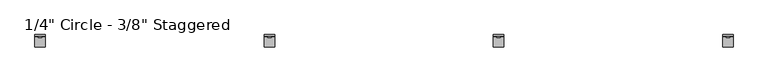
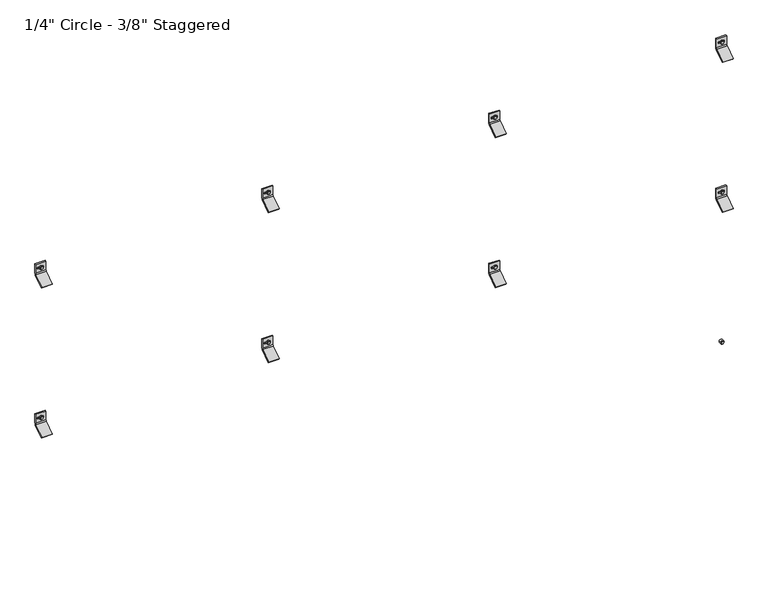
"""IFC4 building model written with IfcOpenShell, lengths in millimetres: plate geometry."""

from ifc_helpers import new_model, si_unit, point, frame, frame_2d, origin, place, context, project, spatial, polyline, circle_curve, trimmed, segment, composite_curve, outline, extrude, source, transform, mapped, element, save
from ifc_brep_helpers import plane_surface, cylinder_surface, revolved_surface, advanced_brep


def plate_4df36928(model_context):
    return source(origin(), model_context, "Body", "SolidModel", [
        extrude(outline(polyline([(1923.7554341, 1250.1282054), (1919.4097216, 1252.6372037), (1919.4097216, 1257.6552003), (1923.7554341, 1260.1641986), (1928.1011466, 1257.6552003), (1928.1011466, 1252.6372037), (1923.7554341, 1250.1282054)])), frame((0.0, -58.7607779, 0.0), z_axis=(0.0, 1.0, 0.0), x_axis=(0.0, 0.0, 1.0)), (0.0, 0.0, 1.0), 11.1357779),
        extrude(outline(composite_curve([segment(trimmed(circle_curve(frame_2d((1923.8487411, 1255.146202)), 6.35), [point((1923.8487411, 1261.496202))], [point((1923.8487411, 1248.796202))], False, "CARTESIAN"), True, "CONTINUOUS"), segment(trimmed(circle_curve(frame_2d((1923.8487411, 1255.146202)), 6.35), [point((1923.8487411, 1248.796202))], [point((1923.8487411, 1261.496202))], False, "CARTESIAN"), True, "CONTINUOUS")], self_intersect=False)), frame((0.0, -57.0817743, 0.0), z_axis=(0.0, 1.0, 0.0), x_axis=(0.0, 0.0, 1.0)), (0.0, 0.0, 1.0), 9.4567743),
        advanced_brep(
        [(1236.096202, -47.625, 1906.606122), (1236.096202, -51.2819443, 1898.9440896), (1236.096202, -89.5163624, 1872.1720618), (1236.096202, -92.9330442, 1875.5887436), (1236.096202, -54.3526876, 1902.6030001), (1236.096202, -52.4002, 1906.6061929), (1236.096202, -52.4002, 1940.7988072), (1236.096202, -47.625, 1940.7988072), (1274.196202, -47.625, 1906.606122), (1274.196202, -47.625, 1940.7988072), (1274.196202, -52.4002, 1940.7988072), (1274.196202, -52.4002, 1906.6061929), (1274.196202, -54.3526876, 1902.6030001), (1274.196202, -92.9330442, 1875.5887436), (1274.196202, -89.5163624, 1872.1720618), (1274.196202, -51.2819443, 1898.9440896), (1261.8873909, -52.4002, 1926.753591), (1261.8873909, -52.4002, 1920.403591), (1245.6595307, -52.4002, 1920.403591), (1245.6595307, -52.4002, 1926.753591), (1261.8873909, -47.625, 1920.403591), (1261.8873909, -47.625, 1926.753591), (1245.6595307, -47.625, 1926.753591), (1245.6595307, -47.625, 1920.403591)],
        [
            (0, 1, circle_curve(frame((1236.096202, -57.4802202, 1906.606122), z_axis=(-1.0, 0.0, 0.0), x_axis=(0.0, -1.0, 0.0)), 9.8552202)),
            (1, 2),
            (2, 3),
            (3, 4),
            (4, 5, circle_curve(frame((1236.096202, -57.4803246, 1906.6061929), z_axis=(1.0, 0.0, 0.0), x_axis=(0.0, -1.0, 0.0)), 5.0801246)),
            (5, 6),
            (6, 7),
            (7, 0),
            (8, 9),
            (9, 10),
            (10, 11),
            (11, 12, circle_curve(frame((1274.196202, -57.4803246, 1906.6061929), z_axis=(-1.0, 0.0, 0.0), x_axis=(0.0, -1.0, 0.0)), 5.0801246)),
            (12, 13),
            (13, 14),
            (14, 15),
            (15, 8, circle_curve(frame((1274.196202, -57.4802202, 1906.606122), z_axis=(1.0, 0.0, 0.0), x_axis=(0.0, -1.0, 0.0)), 9.8552202)),
            (4, 12),
            (11, 5),
            (10, 6),
            (16, 17, circle_curve(frame((1261.8873909, -52.4002, 1923.578591), z_axis=(0.0, 1.0, 0.0), x_axis=(0.0, 0.0, -1.0)), 3.175)),
            (17, 18),
            (18, 19, circle_curve(frame((1245.6595307, -52.4002, 1923.578591), z_axis=(0.0, 1.0, 0.0), x_axis=(0.0, 0.0, -1.0)), 3.175)),
            (19, 16),
            (9, 7),
            (8, 0),
            (20, 21, circle_curve(frame((1261.8873909, -47.625, 1923.578591), z_axis=(0.0, -1.0, 0.0), x_axis=(0.0, 0.0, -1.0)), 3.175)),
            (21, 22),
            (22, 23, circle_curve(frame((1245.6595307, -47.625, 1923.578591), z_axis=(0.0, -1.0, 0.0), x_axis=(0.0, 0.0, -1.0)), 3.175)),
            (23, 20),
            (15, 1),
            (20, 17),
            (16, 21),
            (19, 22),
            (18, 23),
            (14, 2),
            (13, 3),
        ],
        [
            plane_surface(frame((1236.096202, -67.3354404, 1906.606122), z_axis=(-1.0, 0.0, 0.0), x_axis=(0.0, 0.0, 1.0))),
            plane_surface(frame((1274.196202, -67.3354404, 1906.606122), z_axis=(1.0, 0.0, 0.0), x_axis=(0.0, 0.0, -1.0))),
            revolved_surface(polyline([(1274.196202, -62.5604492, 1906.6061929), (1236.096202, -62.5604492, 1906.6061929)]), (1274.196202, -57.4803246, 1906.6061929), (1.0, 0.0, 0.0)),
            plane_surface(frame((1236.096202, -52.4002, 1906.6061929), z_axis=(0.0, -1.0, 0.0), x_axis=(1.0, 0.0, 0.0))),
            plane_surface(frame((1236.096202, -52.4002, 1940.7988072), z_axis=(0.0, 0.0, 1.0), x_axis=(1.0, 0.0, 0.0))),
            plane_surface(frame((1236.096202, -47.625, 1940.7988072), z_axis=(0.0, 1.0, 6.99569853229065e-12), x_axis=(1.0, 0.0, 0.0))),
            cylinder_surface(frame((1274.196202, -57.4802202, 1906.606122), z_axis=(-1.0, 0.0, 0.0), x_axis=(0.0, -1.0, 0.0)), 9.8552202),
            revolved_surface(polyline([(1261.8873909, -52.4002, 1920.403591), (1261.8873909, -47.625, 1920.403591)]), (1261.8873909, -25.6669948, 1923.578591), (0.0, -1.0, 0.0)),
            plane_surface(frame((1261.8873909, -86.677982, 1926.753591), z_axis=(0.0, 0.0, -1.0), x_axis=(0.0, 1.0, 0.0))),
            revolved_surface(polyline([(1245.6595307, -52.4002, 1920.403591), (1245.6595307, -47.625, 1920.403591)]), (1245.6595307, -25.6669948, 1923.578591), (0.0, -1.0, 0.0)),
            plane_surface(frame((1245.6595307, -86.677982, 1920.403591), z_axis=(-2.7237720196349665e-11, 0.0, 1.0), x_axis=(0.0, 1.0, 0.0))),
            plane_surface(frame((1236.096202, -51.2819443, 1898.9440896), z_axis=(0.0, 0.5735764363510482, -0.8191520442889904), x_axis=(1.0, 0.0, 0.0))),
            plane_surface(frame((1236.096202, -89.5163624, 1872.1720618), z_axis=(0.0, -0.7071067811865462, -0.7071067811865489), x_axis=(1.0, 0.0, 0.0))),
            plane_surface(frame((1236.096202, -92.9330442, 1875.5887436), z_axis=(0.0, -0.5735764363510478, 0.8191520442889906), x_axis=(1.0, 0.0, 0.0))),
        ],
        [
            (0, [[1, 2, 3, 4, 5, 6, 7, 8]]),
            (1, [[9, 10, 11, 12, 13, 14, 15, 16]]),
            (2, [[-5, 17, -12, 18]]),
            (3, [[-6, -18, -11, 19], [20, 21, 22, 23]]),
            (4, [[-7, -19, -10, 24]]),
            (5, [[-8, -24, -9, 25], [26, 27, 28, 29]]),
            (6, [[-1, -25, -16, 30]]),
            (7, [[31, -20, 32, -26]]),
            (8, [[-32, -23, 33, -27]]),
            (9, [[-33, -22, 34, -28]]),
            (10, [[-31, -29, -34, -21]]),
            (11, [[-2, -30, -15, 35]]),
            (12, [[-3, -35, -14, 36]]),
            (13, [[-4, -36, -13, -17]]),
        ],
    ),
        extrude(outline(polyline([(1923.7554341, 413.3640708), (1919.4097216, 415.873069), (1919.4097216, 420.8910656), (1923.7554341, 423.4000639), (1928.1011466, 420.8910656), (1928.1011466, 415.873069), (1923.7554341, 413.3640708)])), frame((0.0, -58.7607779, 0.0), z_axis=(0.0, 1.0, 0.0), x_axis=(0.0, 0.0, 1.0)), (0.0, 0.0, 1.0), 11.1357779),
        extrude(outline(composite_curve([segment(trimmed(circle_curve(frame_2d((1923.8487411, 418.3820673)), 6.35), [point((1923.8487411, 424.7320673))], [point((1923.8487411, 412.0320673))], False, "CARTESIAN"), True, "CONTINUOUS"), segment(trimmed(circle_curve(frame_2d((1923.8487411, 418.3820673)), 6.35), [point((1923.8487411, 412.0320673))], [point((1923.8487411, 424.7320673))], False, "CARTESIAN"), True, "CONTINUOUS")], self_intersect=False)), frame((0.0, -57.0817743, 0.0), z_axis=(0.0, 1.0, 0.0), x_axis=(0.0, 0.0, 1.0)), (0.0, 0.0, 1.0), 9.4567743),
        advanced_brep(
        [(399.3320673, -47.625, 1906.606122), (399.3320673, -51.2819443, 1898.9440896), (399.3320673, -89.5163624, 1872.1720618), (399.3320673, -92.9330442, 1875.5887436), (399.3320673, -54.3526876, 1902.6030001), (399.3320673, -52.4002, 1906.6061929), (399.3320673, -52.4002, 1940.7988072), (399.3320673, -47.625, 1940.7988072), (437.4320673, -47.625, 1906.606122), (437.4320673, -47.625, 1940.7988072), (437.4320673, -52.4002, 1940.7988072), (437.4320673, -52.4002, 1906.6061929), (437.4320673, -54.3526876, 1902.6030001), (437.4320673, -92.9330442, 1875.5887436), (437.4320673, -89.5163624, 1872.1720618), (437.4320673, -51.2819443, 1898.9440896), (425.1232562, -52.4002, 1926.753591), (425.1232562, -52.4002, 1920.403591), (408.895396, -52.4002, 1920.403591), (408.895396, -52.4002, 1926.753591), (425.1232562, -47.625, 1920.403591), (425.1232562, -47.625, 1926.753591), (408.895396, -47.625, 1926.753591), (408.895396, -47.625, 1920.403591)],
        [
            (0, 1, circle_curve(frame((399.3320673, -57.4802202, 1906.606122), z_axis=(-1.0, 0.0, 0.0), x_axis=(0.0, -1.0, 0.0)), 9.8552202)),
            (1, 2),
            (2, 3),
            (3, 4),
            (4, 5, circle_curve(frame((399.3320673, -57.4803246, 1906.6061929), z_axis=(1.0, 0.0, 0.0), x_axis=(0.0, -1.0, 0.0)), 5.0801246)),
            (5, 6),
            (6, 7),
            (7, 0),
            (8, 9),
            (9, 10),
            (10, 11),
            (11, 12, circle_curve(frame((437.4320673, -57.4803246, 1906.6061929), z_axis=(-1.0, 0.0, 0.0), x_axis=(0.0, -1.0, 0.0)), 5.0801246)),
            (12, 13),
            (13, 14),
            (14, 15),
            (15, 8, circle_curve(frame((437.4320673, -57.4802202, 1906.606122), z_axis=(1.0, 0.0, 0.0), x_axis=(0.0, -1.0, 0.0)), 9.8552202)),
            (4, 12),
            (11, 5),
            (10, 6),
            (16, 17, circle_curve(frame((425.1232562, -52.4002, 1923.578591), z_axis=(0.0, 1.0, 0.0), x_axis=(0.0, 0.0, -1.0)), 3.175)),
            (17, 18),
            (18, 19, circle_curve(frame((408.895396, -52.4002, 1923.578591), z_axis=(0.0, 1.0, 0.0), x_axis=(0.0, 0.0, -1.0)), 3.175)),
            (19, 16),
            (9, 7),
            (8, 0),
            (20, 21, circle_curve(frame((425.1232562, -47.625, 1923.578591), z_axis=(0.0, -1.0, 0.0), x_axis=(0.0, 0.0, -1.0)), 3.175)),
            (21, 22),
            (22, 23, circle_curve(frame((408.895396, -47.625, 1923.578591), z_axis=(0.0, -1.0, 0.0), x_axis=(0.0, 0.0, -1.0)), 3.175)),
            (23, 20),
            (15, 1),
            (20, 17),
            (16, 21),
            (19, 22),
            (18, 23),
            (14, 2),
            (13, 3),
        ],
        [
            plane_surface(frame((399.3320673, -67.3354404, 1906.606122), z_axis=(-1.0, 0.0, 0.0), x_axis=(0.0, 0.0, 1.0))),
            plane_surface(frame((437.4320673, -67.3354404, 1906.606122), z_axis=(1.0, 0.0, 0.0), x_axis=(0.0, 0.0, -1.0))),
            revolved_surface(polyline([(437.4320673, -62.5604492, 1906.6061929), (399.3320673, -62.5604492, 1906.6061929)]), (437.4320673, -57.4803246, 1906.6061929), (1.0, 0.0, 0.0)),
            plane_surface(frame((399.3320673, -52.4002, 1906.6061929), z_axis=(0.0, -1.0, 0.0), x_axis=(1.0, 0.0, 0.0))),
            plane_surface(frame((399.3320673, -52.4002, 1940.7988072), z_axis=(0.0, 0.0, 1.0), x_axis=(1.0, 0.0, 0.0))),
            plane_surface(frame((399.3320673, -47.625, 1940.7988072), z_axis=(0.0, 1.0, 6.99569853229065e-12), x_axis=(1.0, 0.0, 0.0))),
            cylinder_surface(frame((437.4320673, -57.4802202, 1906.606122), z_axis=(-1.0, 0.0, 0.0), x_axis=(0.0, -1.0, 0.0)), 9.8552202),
            revolved_surface(polyline([(425.1232562, -52.4002, 1920.403591), (425.1232562, -47.625, 1920.403591)]), (425.1232562, -25.6669948, 1923.578591), (0.0, -1.0, 0.0)),
            plane_surface(frame((425.1232562, -86.677982, 1926.753591), z_axis=(0.0, 0.0, -1.0), x_axis=(0.0, 1.0, 0.0))),
            revolved_surface(polyline([(408.895396, -52.4002, 1920.403591), (408.895396, -47.625, 1920.403591)]), (408.895396, -25.6669948, 1923.578591), (0.0, -1.0, 0.0)),
            plane_surface(frame((408.895396, -86.677982, 1920.403591), z_axis=(-2.7237720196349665e-11, 0.0, 1.0), x_axis=(0.0, 1.0, 0.0))),
            plane_surface(frame((399.3320673, -51.2819443, 1898.9440896), z_axis=(0.0, 0.5735764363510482, -0.8191520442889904), x_axis=(1.0, 0.0, 0.0))),
            plane_surface(frame((399.3320673, -89.5163624, 1872.1720618), z_axis=(0.0, -0.7071067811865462, -0.7071067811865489), x_axis=(1.0, 0.0, 0.0))),
            plane_surface(frame((399.3320673, -92.9330442, 1875.5887436), z_axis=(0.0, -0.5735764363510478, 0.8191520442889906), x_axis=(1.0, 0.0, 0.0))),
        ],
        [
            (0, [[1, 2, 3, 4, 5, 6, 7, 8]]),
            (1, [[9, 10, 11, 12, 13, 14, 15, 16]]),
            (2, [[-5, 17, -12, 18]]),
            (3, [[-6, -18, -11, 19], [20, 21, 22, 23]]),
            (4, [[-7, -19, -10, 24]]),
            (5, [[-8, -24, -9, 25], [26, 27, 28, 29]]),
            (6, [[-1, -25, -16, 30]]),
            (7, [[31, -20, 32, -26]]),
            (8, [[-32, -23, 33, -27]]),
            (9, [[-33, -22, 34, -28]]),
            (10, [[-31, -29, -34, -21]]),
            (11, [[-2, -30, -15, 35]]),
            (12, [[-3, -35, -14, 36]]),
            (13, [[-4, -36, -13, -17]]),
        ],
    ),
        extrude(outline(polyline([(1923.7554341, -423.4000639), (1919.4097216, -420.8910656), (1919.4097216, -415.873069), (1923.7554341, -413.3640708), (1928.1011466, -415.873069), (1928.1011466, -420.8910656), (1923.7554341, -423.4000639)])), frame((0.0, -58.7607779, 0.0), z_axis=(0.0, 1.0, 0.0), x_axis=(0.0, 0.0, 1.0)), (0.0, 0.0, 1.0), 11.1357779),
        extrude(outline(composite_curve([segment(trimmed(circle_curve(frame_2d((1923.8487411, -418.3820673)), 6.35), [point((1923.8487411, -412.0320673))], [point((1923.8487411, -424.7320673))], False, "CARTESIAN"), True, "CONTINUOUS"), segment(trimmed(circle_curve(frame_2d((1923.8487411, -418.3820673)), 6.35), [point((1923.8487411, -424.7320673))], [point((1923.8487411, -412.0320673))], False, "CARTESIAN"), True, "CONTINUOUS")], self_intersect=False)), frame((0.0, -57.0817743, 0.0), z_axis=(0.0, 1.0, 0.0), x_axis=(0.0, 0.0, 1.0)), (0.0, 0.0, 1.0), 9.4567743),
        advanced_brep(
        [(-437.4320673, -47.625, 1906.606122), (-437.4320673, -51.2819443, 1898.9440896), (-437.4320673, -89.5163624, 1872.1720618), (-437.4320673, -92.9330442, 1875.5887436), (-437.4320673, -54.3526876, 1902.6030001), (-437.4320673, -52.4002, 1906.6061929), (-437.4320673, -52.4002, 1940.7988072), (-437.4320673, -47.625, 1940.7988072), (-399.3320673, -47.625, 1906.606122), (-399.3320673, -47.625, 1940.7988072), (-399.3320673, -52.4002, 1940.7988072), (-399.3320673, -52.4002, 1906.6061929), (-399.3320673, -54.3526876, 1902.6030001), (-399.3320673, -92.9330442, 1875.5887436), (-399.3320673, -89.5163624, 1872.1720618), (-399.3320673, -51.2819443, 1898.9440896), (-411.6408784, -52.4002, 1926.753591), (-411.6408784, -52.4002, 1920.403591), (-427.8687386, -52.4002, 1920.403591), (-427.8687386, -52.4002, 1926.753591), (-411.6408784, -47.625, 1920.403591), (-411.6408784, -47.625, 1926.753591), (-427.8687386, -47.625, 1926.753591), (-427.8687386, -47.625, 1920.403591)],
        [
            (0, 1, circle_curve(frame((-437.4320673, -57.4802202, 1906.606122), z_axis=(-1.0, 0.0, 0.0), x_axis=(0.0, -1.0, 0.0)), 9.8552202)),
            (1, 2),
            (2, 3),
            (3, 4),
            (4, 5, circle_curve(frame((-437.4320673, -57.4803246, 1906.6061929), z_axis=(1.0, 0.0, 0.0), x_axis=(0.0, -1.0, 0.0)), 5.0801246)),
            (5, 6),
            (6, 7),
            (7, 0),
            (8, 9),
            (9, 10),
            (10, 11),
            (11, 12, circle_curve(frame((-399.3320673, -57.4803246, 1906.6061929), z_axis=(-1.0, 0.0, 0.0), x_axis=(0.0, -1.0, 0.0)), 5.0801246)),
            (12, 13),
            (13, 14),
            (14, 15),
            (15, 8, circle_curve(frame((-399.3320673, -57.4802202, 1906.606122), z_axis=(1.0, 0.0, 0.0), x_axis=(0.0, -1.0, 0.0)), 9.8552202)),
            (4, 12),
            (11, 5),
            (10, 6),
            (16, 17, circle_curve(frame((-411.6408784, -52.4002, 1923.578591), z_axis=(0.0, 1.0, 0.0), x_axis=(0.0, 0.0, -1.0)), 3.175)),
            (17, 18),
            (18, 19, circle_curve(frame((-427.8687386, -52.4002, 1923.578591), z_axis=(0.0, 1.0, 0.0), x_axis=(0.0, 0.0, -1.0)), 3.175)),
            (19, 16),
            (9, 7),
            (8, 0),
            (20, 21, circle_curve(frame((-411.6408784, -47.625, 1923.578591), z_axis=(0.0, -1.0, 0.0), x_axis=(0.0, 0.0, -1.0)), 3.175)),
            (21, 22),
            (22, 23, circle_curve(frame((-427.8687386, -47.625, 1923.578591), z_axis=(0.0, -1.0, 0.0), x_axis=(0.0, 0.0, -1.0)), 3.175)),
            (23, 20),
            (15, 1),
            (20, 17),
            (16, 21),
            (19, 22),
            (18, 23),
            (14, 2),
            (13, 3),
        ],
        [
            plane_surface(frame((-437.4320673, -67.3354404, 1906.606122), z_axis=(-1.0, 0.0, 0.0), x_axis=(0.0, 0.0, 1.0))),
            plane_surface(frame((-399.3320673, -67.3354404, 1906.606122), z_axis=(1.0, 0.0, 0.0), x_axis=(0.0, 0.0, -1.0))),
            revolved_surface(polyline([(-399.3320673, -62.5604492, 1906.6061929), (-437.4320673, -62.5604492, 1906.6061929)]), (-399.3320673, -57.4803246, 1906.6061929), (1.0, 0.0, 0.0)),
            plane_surface(frame((-437.4320673, -52.4002, 1906.6061929), z_axis=(0.0, -1.0, 0.0), x_axis=(1.0, 0.0, 0.0))),
            plane_surface(frame((-437.4320673, -52.4002, 1940.7988072), z_axis=(0.0, 0.0, 1.0), x_axis=(1.0, 0.0, 0.0))),
            plane_surface(frame((-437.4320673, -47.625, 1940.7988072), z_axis=(0.0, 1.0, 6.99569853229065e-12), x_axis=(1.0, 0.0, 0.0))),
            cylinder_surface(frame((-399.3320673, -57.4802202, 1906.606122), z_axis=(-1.0, 0.0, 0.0), x_axis=(0.0, -1.0, 0.0)), 9.8552202),
            revolved_surface(polyline([(-411.6408784, -52.4002, 1920.403591), (-411.6408784, -47.625, 1920.403591)]), (-411.6408784, -25.6669948, 1923.578591), (0.0, -1.0, 0.0)),
            plane_surface(frame((-411.6408784, -86.677982, 1926.753591), z_axis=(0.0, 0.0, -1.0), x_axis=(0.0, 1.0, 0.0))),
            revolved_surface(polyline([(-427.8687386, -52.4002, 1920.403591), (-427.8687386, -47.625, 1920.403591)]), (-427.8687386, -25.6669948, 1923.578591), (0.0, -1.0, 0.0)),
            plane_surface(frame((-427.8687386, -86.677982, 1920.403591), z_axis=(-2.7237720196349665e-11, 0.0, 1.0), x_axis=(0.0, 1.0, 0.0))),
            plane_surface(frame((-437.4320673, -51.2819443, 1898.9440896), z_axis=(0.0, 0.5735764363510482, -0.8191520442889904), x_axis=(1.0, 0.0, 0.0))),
            plane_surface(frame((-437.4320673, -89.5163624, 1872.1720618), z_axis=(0.0, -0.7071067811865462, -0.7071067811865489), x_axis=(1.0, 0.0, 0.0))),
            plane_surface(frame((-437.4320673, -92.9330442, 1875.5887436), z_axis=(0.0, -0.5735764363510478, 0.8191520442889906), x_axis=(1.0, 0.0, 0.0))),
        ],
        [
            (0, [[1, 2, 3, 4, 5, 6, 7, 8]]),
            (1, [[9, 10, 11, 12, 13, 14, 15, 16]]),
            (2, [[-5, 17, -12, 18]]),
            (3, [[-6, -18, -11, 19], [20, 21, 22, 23]]),
            (4, [[-7, -19, -10, 24]]),
            (5, [[-8, -24, -9, 25], [26, 27, 28, 29]]),
            (6, [[-1, -25, -16, 30]]),
            (7, [[31, -20, 32, -26]]),
            (8, [[-32, -23, 33, -27]]),
            (9, [[-33, -22, 34, -28]]),
            (10, [[-31, -29, -34, -21]]),
            (11, [[-2, -30, -15, 35]]),
            (12, [[-3, -35, -14, 36]]),
            (13, [[-4, -36, -13, -17]]),
        ],
    ),
        extrude(outline(polyline([(1923.7554341, -1260.1641986), (1919.4097216, -1257.6552003), (1919.4097216, -1252.6372037), (1923.7554341, -1250.1282054), (1928.1011466, -1252.6372037), (1928.1011466, -1257.6552003), (1923.7554341, -1260.1641986)])), frame((0.0, -58.7607779, 0.0), z_axis=(0.0, 1.0, 0.0), x_axis=(0.0, 0.0, 1.0)), (0.0, 0.0, 1.0), 11.1357779),
        extrude(outline(composite_curve([segment(trimmed(circle_curve(frame_2d((1923.8487411, -1255.146202)), 6.35), [point((1923.8487411, -1248.796202))], [point((1923.8487411, -1261.496202))], False, "CARTESIAN"), True, "CONTINUOUS"), segment(trimmed(circle_curve(frame_2d((1923.8487411, -1255.146202)), 6.35), [point((1923.8487411, -1261.496202))], [point((1923.8487411, -1248.796202))], False, "CARTESIAN"), True, "CONTINUOUS")], self_intersect=False)), frame((0.0, -57.0817743, 0.0), z_axis=(0.0, 1.0, 0.0), x_axis=(0.0, 0.0, 1.0)), (0.0, 0.0, 1.0), 9.4567743),
        advanced_brep(
        [(-1274.196202, -47.625, 1906.606122), (-1274.196202, -51.2819443, 1898.9440896), (-1274.196202, -89.5163624, 1872.1720618), (-1274.196202, -92.9330442, 1875.5887436), (-1274.196202, -54.3526876, 1902.6030001), (-1274.196202, -52.4002, 1906.6061929), (-1274.196202, -52.4002, 1940.7988072), (-1274.196202, -47.625, 1940.7988072), (-1236.096202, -47.625, 1906.606122), (-1236.096202, -47.625, 1940.7988072), (-1236.096202, -52.4002, 1940.7988072), (-1236.096202, -52.4002, 1906.6061929), (-1236.096202, -54.3526876, 1902.6030001), (-1236.096202, -92.9330442, 1875.5887436), (-1236.096202, -89.5163624, 1872.1720618), (-1236.096202, -51.2819443, 1898.9440896), (-1248.4050131, -52.4002, 1926.753591), (-1248.4050131, -52.4002, 1920.403591), (-1264.6328733, -52.4002, 1920.403591), (-1264.6328733, -52.4002, 1926.753591), (-1248.4050131, -47.625, 1920.403591), (-1248.4050131, -47.625, 1926.753591), (-1264.6328733, -47.625, 1926.753591), (-1264.6328733, -47.625, 1920.403591)],
        [
            (0, 1, circle_curve(frame((-1274.196202, -57.4802202, 1906.606122), z_axis=(-1.0, 0.0, 0.0), x_axis=(0.0, -1.0, 0.0)), 9.8552202)),
            (1, 2),
            (2, 3),
            (3, 4),
            (4, 5, circle_curve(frame((-1274.196202, -57.4803246, 1906.6061929), z_axis=(1.0, 0.0, 0.0), x_axis=(0.0, -1.0, 0.0)), 5.0801246)),
            (5, 6),
            (6, 7),
            (7, 0),
            (8, 9),
            (9, 10),
            (10, 11),
            (11, 12, circle_curve(frame((-1236.096202, -57.4803246, 1906.6061929), z_axis=(-1.0, 0.0, 0.0), x_axis=(0.0, -1.0, 0.0)), 5.0801246)),
            (12, 13),
            (13, 14),
            (14, 15),
            (15, 8, circle_curve(frame((-1236.096202, -57.4802202, 1906.606122), z_axis=(1.0, 0.0, 0.0), x_axis=(0.0, -1.0, 0.0)), 9.8552202)),
            (4, 12),
            (11, 5),
            (10, 6),
            (16, 17, circle_curve(frame((-1248.4050131, -52.4002, 1923.578591), z_axis=(0.0, 1.0, 0.0), x_axis=(0.0, 0.0, -1.0)), 3.175)),
            (17, 18),
            (18, 19, circle_curve(frame((-1264.6328733, -52.4002, 1923.578591), z_axis=(0.0, 1.0, 0.0), x_axis=(0.0, 0.0, -1.0)), 3.175)),
            (19, 16),
            (9, 7),
            (8, 0),
            (20, 21, circle_curve(frame((-1248.4050131, -47.625, 1923.578591), z_axis=(0.0, -1.0, 0.0), x_axis=(0.0, 0.0, -1.0)), 3.175)),
            (21, 22),
            (22, 23, circle_curve(frame((-1264.6328733, -47.625, 1923.578591), z_axis=(0.0, -1.0, 0.0), x_axis=(0.0, 0.0, -1.0)), 3.175)),
            (23, 20),
            (15, 1),
            (20, 17),
            (16, 21),
            (19, 22),
            (18, 23),
            (14, 2),
            (13, 3),
        ],
        [
            plane_surface(frame((-1274.196202, -67.3354404, 1906.606122), z_axis=(-1.0, 0.0, 0.0), x_axis=(0.0, 0.0, 1.0))),
            plane_surface(frame((-1236.096202, -67.3354404, 1906.606122), z_axis=(1.0, 0.0, 0.0), x_axis=(0.0, 0.0, -1.0))),
            revolved_surface(polyline([(-1236.096202, -62.5604492, 1906.6061929), (-1274.196202, -62.5604492, 1906.6061929)]), (-1236.096202, -57.4803246, 1906.6061929), (1.0, 0.0, 0.0)),
            plane_surface(frame((-1274.196202, -52.4002, 1906.6061929), z_axis=(0.0, -1.0, 0.0), x_axis=(1.0, 0.0, 0.0))),
            plane_surface(frame((-1274.196202, -52.4002, 1940.7988072), z_axis=(0.0, 0.0, 1.0), x_axis=(1.0, 0.0, 0.0))),
            plane_surface(frame((-1274.196202, -47.625, 1940.7988072), z_axis=(0.0, 1.0, 6.99569853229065e-12), x_axis=(1.0, 0.0, 0.0))),
            cylinder_surface(frame((-1236.096202, -57.4802202, 1906.606122), z_axis=(-1.0, 0.0, 0.0), x_axis=(0.0, -1.0, 0.0)), 9.8552202),
            revolved_surface(polyline([(-1248.4050131, -52.4002, 1920.403591), (-1248.4050131, -47.625, 1920.403591)]), (-1248.4050131, -25.6669948, 1923.578591), (0.0, -1.0, 0.0)),
            plane_surface(frame((-1248.4050131, -86.677982, 1926.753591), z_axis=(0.0, 0.0, -1.0), x_axis=(0.0, 1.0, 0.0))),
            revolved_surface(polyline([(-1264.6328733, -52.4002, 1920.403591), (-1264.6328733, -47.625, 1920.403591)]), (-1264.6328733, -25.6669948, 1923.578591), (0.0, -1.0, 0.0)),
            plane_surface(frame((-1264.6328733, -86.677982, 1920.403591), z_axis=(-2.7237720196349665e-11, 0.0, 1.0), x_axis=(0.0, 1.0, 0.0))),
            plane_surface(frame((-1274.196202, -51.2819443, 1898.9440896), z_axis=(0.0, 0.5735764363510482, -0.8191520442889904), x_axis=(1.0, 0.0, 0.0))),
            plane_surface(frame((-1274.196202, -89.5163624, 1872.1720618), z_axis=(0.0, -0.7071067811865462, -0.7071067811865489), x_axis=(1.0, 0.0, 0.0))),
            plane_surface(frame((-1274.196202, -92.9330442, 1875.5887436), z_axis=(0.0, -0.5735764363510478, 0.8191520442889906), x_axis=(1.0, 0.0, 0.0))),
        ],
        [
            (0, [[1, 2, 3, 4, 5, 6, 7, 8]]),
            (1, [[9, 10, 11, 12, 13, 14, 15, 16]]),
            (2, [[-5, 17, -12, 18]]),
            (3, [[-6, -18, -11, 19], [20, 21, 22, 23]]),
            (4, [[-7, -19, -10, 24]]),
            (5, [[-8, -24, -9, 25], [26, 27, 28, 29]]),
            (6, [[-1, -25, -16, 30]]),
            (7, [[31, -20, 32, -26]]),
            (8, [[-32, -23, 33, -27]]),
            (9, [[-33, -22, 34, -28]]),
            (10, [[-31, -29, -34, -21]]),
            (11, [[-2, -30, -15, 35]]),
            (12, [[-3, -35, -14, 36]]),
            (13, [[-4, -36, -13, -17]]),
        ],
    ),
        extrude(outline(polyline([(1339.1301335, 1250.1282054), (1334.784421, 1252.6372037), (1334.784421, 1257.6552003), (1339.1301335, 1260.1641986), (1343.475846, 1257.6552003), (1343.475846, 1252.6372037), (1339.1301335, 1250.1282054)])), frame((0.0, -58.7607779, 0.0), z_axis=(0.0, 1.0, 0.0), x_axis=(0.0, 0.0, 1.0)), (0.0, 0.0, 1.0), 11.1357779),
        extrude(outline(composite_curve([segment(trimmed(circle_curve(frame_2d((1339.2234405, 1255.146202)), 6.35), [point((1339.2234405, 1261.496202))], [point((1339.2234405, 1248.796202))], False, "CARTESIAN"), True, "CONTINUOUS"), segment(trimmed(circle_curve(frame_2d((1339.2234405, 1255.146202)), 6.35), [point((1339.2234405, 1248.796202))], [point((1339.2234405, 1261.496202))], False, "CARTESIAN"), True, "CONTINUOUS")], self_intersect=False)), frame((0.0, -57.0817743, 0.0), z_axis=(0.0, 1.0, 0.0), x_axis=(0.0, 0.0, 1.0)), (0.0, 0.0, 1.0), 9.4567743),
        advanced_brep(
        [(1236.096202, -47.625, 1321.9808214), (1236.096202, -51.2819443, 1314.318789), (1236.096202, -89.5163624, 1287.5467612), (1236.096202, -92.9330442, 1290.963443), (1236.096202, -54.3526876, 1317.9776995), (1236.096202, -52.4002, 1321.9808923), (1236.096202, -52.4002, 1356.1735066), (1236.096202, -47.625, 1356.1735066), (1274.196202, -47.625, 1321.9808214), (1274.196202, -47.625, 1356.1735066), (1274.196202, -52.4002, 1356.1735066), (1274.196202, -52.4002, 1321.9808923), (1274.196202, -54.3526876, 1317.9776995), (1274.196202, -92.9330442, 1290.963443), (1274.196202, -89.5163624, 1287.5467612), (1274.196202, -51.2819443, 1314.318789), (1261.8873909, -52.4002, 1342.1282903), (1261.8873909, -52.4002, 1335.7782903), (1245.6595307, -52.4002, 1335.7782903), (1245.6595307, -52.4002, 1342.1282903), (1261.8873909, -47.625, 1335.7782903), (1261.8873909, -47.625, 1342.1282903), (1245.6595307, -47.625, 1342.1282903), (1245.6595307, -47.625, 1335.7782903)],
        [
            (0, 1, circle_curve(frame((1236.096202, -57.4802202, 1321.9808214), z_axis=(-1.0, 0.0, 0.0), x_axis=(0.0, -1.0, 0.0)), 9.8552202)),
            (1, 2),
            (2, 3),
            (3, 4),
            (4, 5, circle_curve(frame((1236.096202, -57.4803246, 1321.9808923), z_axis=(1.0, 0.0, 0.0), x_axis=(0.0, -1.0, 0.0)), 5.0801246)),
            (5, 6),
            (6, 7),
            (7, 0),
            (8, 9),
            (9, 10),
            (10, 11),
            (11, 12, circle_curve(frame((1274.196202, -57.4803246, 1321.9808923), z_axis=(-1.0, 0.0, 0.0), x_axis=(0.0, -1.0, 0.0)), 5.0801246)),
            (12, 13),
            (13, 14),
            (14, 15),
            (15, 8, circle_curve(frame((1274.196202, -57.4802202, 1321.9808214), z_axis=(1.0, 0.0, 0.0), x_axis=(0.0, -1.0, 0.0)), 9.8552202)),
            (4, 12),
            (11, 5),
            (10, 6),
            (16, 17, circle_curve(frame((1261.8873909, -52.4002, 1338.9532903), z_axis=(0.0, 1.0, 0.0), x_axis=(0.0, 0.0, -1.0)), 3.175)),
            (17, 18),
            (18, 19, circle_curve(frame((1245.6595307, -52.4002, 1338.9532903), z_axis=(0.0, 1.0, 0.0), x_axis=(0.0, 0.0, -1.0)), 3.175)),
            (19, 16),
            (9, 7),
            (8, 0),
            (20, 21, circle_curve(frame((1261.8873909, -47.625, 1338.9532903), z_axis=(0.0, -1.0, 0.0), x_axis=(0.0, 0.0, -1.0)), 3.175)),
            (21, 22),
            (22, 23, circle_curve(frame((1245.6595307, -47.625, 1338.9532903), z_axis=(0.0, -1.0, 0.0), x_axis=(0.0, 0.0, -1.0)), 3.175)),
            (23, 20),
            (15, 1),
            (20, 17),
            (16, 21),
            (19, 22),
            (18, 23),
            (14, 2),
            (13, 3),
        ],
        [
            plane_surface(frame((1236.096202, -67.3354404, 1321.9808214), z_axis=(-1.0, 0.0, 0.0), x_axis=(0.0, 0.0, 1.0))),
            plane_surface(frame((1274.196202, -67.3354404, 1321.9808214), z_axis=(1.0, 0.0, 0.0), x_axis=(0.0, 0.0, -1.0))),
            revolved_surface(polyline([(1274.196202, -62.5604492, 1321.9808923), (1236.096202, -62.5604492, 1321.9808923)]), (1274.196202, -57.4803246, 1321.9808923), (1.0, 0.0, 0.0)),
            plane_surface(frame((1236.096202, -52.4002, 1321.9808923), z_axis=(0.0, -1.0, 0.0), x_axis=(1.0, 0.0, 0.0))),
            plane_surface(frame((1236.096202, -52.4002, 1356.1735066), z_axis=(0.0, 0.0, 1.0), x_axis=(1.0, 0.0, 0.0))),
            plane_surface(frame((1236.096202, -47.625, 1356.1735066), z_axis=(0.0, 1.0, 6.99569853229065e-12), x_axis=(1.0, 0.0, 0.0))),
            cylinder_surface(frame((1274.196202, -57.4802202, 1321.9808214), z_axis=(-1.0, 0.0, 0.0), x_axis=(0.0, -1.0, 0.0)), 9.8552202),
            revolved_surface(polyline([(1261.8873909, -52.4002, 1335.7782903), (1261.8873909, -47.625, 1335.7782903)]), (1261.8873909, -25.6669948, 1338.9532903), (0.0, -1.0, 0.0)),
            plane_surface(frame((1261.8873909, -86.677982, 1342.1282903), z_axis=(0.0, 0.0, -1.0), x_axis=(0.0, 1.0, 0.0))),
            revolved_surface(polyline([(1245.6595307, -52.4002, 1335.7782903), (1245.6595307, -47.625, 1335.7782903)]), (1245.6595307, -25.6669948, 1338.9532903), (0.0, -1.0, 0.0)),
            plane_surface(frame((1245.6595307, -86.677982, 1335.7782903), z_axis=(-2.7237766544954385e-11, 0.0, 1.0), x_axis=(0.0, 1.0, 0.0))),
            plane_surface(frame((1236.096202, -51.2819443, 1314.318789), z_axis=(0.0, 0.5735764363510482, -0.8191520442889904), x_axis=(1.0, 0.0, 0.0))),
            plane_surface(frame((1236.096202, -89.5163624, 1287.5467612), z_axis=(0.0, -0.7071067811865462, -0.7071067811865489), x_axis=(1.0, 0.0, 0.0))),
            plane_surface(frame((1236.096202, -92.9330442, 1290.963443), z_axis=(0.0, -0.5735764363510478, 0.8191520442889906), x_axis=(1.0, 0.0, 0.0))),
        ],
        [
            (0, [[1, 2, 3, 4, 5, 6, 7, 8]]),
            (1, [[9, 10, 11, 12, 13, 14, 15, 16]]),
            (2, [[-5, 17, -12, 18]]),
            (3, [[-6, -18, -11, 19], [20, 21, 22, 23]]),
            (4, [[-7, -19, -10, 24]]),
            (5, [[-8, -24, -9, 25], [26, 27, 28, 29]]),
            (6, [[-1, -25, -16, 30]]),
            (7, [[31, -20, 32, -26]]),
            (8, [[-32, -23, 33, -27]]),
            (9, [[-33, -22, 34, -28]]),
            (10, [[-31, -29, -34, -21]]),
            (11, [[-2, -30, -15, 35]]),
            (12, [[-3, -35, -14, 36]]),
            (13, [[-4, -36, -13, -17]]),
        ],
    ),
        extrude(outline(polyline([(1339.1301335, 413.3640708), (1334.784421, 415.873069), (1334.784421, 420.8910656), (1339.1301335, 423.4000639), (1343.475846, 420.8910656), (1343.475846, 415.873069), (1339.1301335, 413.3640708)])), frame((0.0, -58.7607779, 0.0), z_axis=(0.0, 1.0, 0.0), x_axis=(0.0, 0.0, 1.0)), (0.0, 0.0, 1.0), 11.1357779),
        extrude(outline(composite_curve([segment(trimmed(circle_curve(frame_2d((1339.2234405, 418.3820673)), 6.35), [point((1339.2234405, 424.7320673))], [point((1339.2234405, 412.0320673))], False, "CARTESIAN"), True, "CONTINUOUS"), segment(trimmed(circle_curve(frame_2d((1339.2234405, 418.3820673)), 6.35), [point((1339.2234405, 412.0320673))], [point((1339.2234405, 424.7320673))], False, "CARTESIAN"), True, "CONTINUOUS")], self_intersect=False)), frame((0.0, -57.0817743, 0.0), z_axis=(0.0, 1.0, 0.0), x_axis=(0.0, 0.0, 1.0)), (0.0, 0.0, 1.0), 9.4567743),
        advanced_brep(
        [(399.3320673, -47.625, 1321.9808214), (399.3320673, -51.2819443, 1314.318789), (399.3320673, -89.5163624, 1287.5467612), (399.3320673, -92.9330442, 1290.963443), (399.3320673, -54.3526876, 1317.9776995), (399.3320673, -52.4002, 1321.9808923), (399.3320673, -52.4002, 1356.1735066), (399.3320673, -47.625, 1356.1735066), (437.4320673, -47.625, 1321.9808214), (437.4320673, -47.625, 1356.1735066), (437.4320673, -52.4002, 1356.1735066), (437.4320673, -52.4002, 1321.9808923), (437.4320673, -54.3526876, 1317.9776995), (437.4320673, -92.9330442, 1290.963443), (437.4320673, -89.5163624, 1287.5467612), (437.4320673, -51.2819443, 1314.318789), (425.1232562, -52.4002, 1342.1282903), (425.1232562, -52.4002, 1335.7782903), (408.895396, -52.4002, 1335.7782903), (408.895396, -52.4002, 1342.1282903), (425.1232562, -47.625, 1335.7782903), (425.1232562, -47.625, 1342.1282903), (408.895396, -47.625, 1342.1282903), (408.895396, -47.625, 1335.7782903)],
        [
            (0, 1, circle_curve(frame((399.3320673, -57.4802202, 1321.9808214), z_axis=(-1.0, 0.0, 0.0), x_axis=(0.0, -1.0, 0.0)), 9.8552202)),
            (1, 2),
            (2, 3),
            (3, 4),
            (4, 5, circle_curve(frame((399.3320673, -57.4803246, 1321.9808923), z_axis=(1.0, 0.0, 0.0), x_axis=(0.0, -1.0, 0.0)), 5.0801246)),
            (5, 6),
            (6, 7),
            (7, 0),
            (8, 9),
            (9, 10),
            (10, 11),
            (11, 12, circle_curve(frame((437.4320673, -57.4803246, 1321.9808923), z_axis=(-1.0, 0.0, 0.0), x_axis=(0.0, -1.0, 0.0)), 5.0801246)),
            (12, 13),
            (13, 14),
            (14, 15),
            (15, 8, circle_curve(frame((437.4320673, -57.4802202, 1321.9808214), z_axis=(1.0, 0.0, 0.0), x_axis=(0.0, -1.0, 0.0)), 9.8552202)),
            (4, 12),
            (11, 5),
            (10, 6),
            (16, 17, circle_curve(frame((425.1232562, -52.4002, 1338.9532903), z_axis=(0.0, 1.0, 0.0), x_axis=(0.0, 0.0, -1.0)), 3.175)),
            (17, 18),
            (18, 19, circle_curve(frame((408.895396, -52.4002, 1338.9532903), z_axis=(0.0, 1.0, 0.0), x_axis=(0.0, 0.0, -1.0)), 3.175)),
            (19, 16),
            (9, 7),
            (8, 0),
            (20, 21, circle_curve(frame((425.1232562, -47.625, 1338.9532903), z_axis=(0.0, -1.0, 0.0), x_axis=(0.0, 0.0, -1.0)), 3.175)),
            (21, 22),
            (22, 23, circle_curve(frame((408.895396, -47.625, 1338.9532903), z_axis=(0.0, -1.0, 0.0), x_axis=(0.0, 0.0, -1.0)), 3.175)),
            (23, 20),
            (15, 1),
            (20, 17),
            (16, 21),
            (19, 22),
            (18, 23),
            (14, 2),
            (13, 3),
        ],
        [
            plane_surface(frame((399.3320673, -67.3354404, 1321.9808214), z_axis=(-1.0, 0.0, 0.0), x_axis=(0.0, 0.0, 1.0))),
            plane_surface(frame((437.4320673, -67.3354404, 1321.9808214), z_axis=(1.0, 0.0, 0.0), x_axis=(0.0, 0.0, -1.0))),
            revolved_surface(polyline([(437.4320673, -62.5604492, 1321.9808923), (399.3320673, -62.5604492, 1321.9808923)]), (437.4320673, -57.4803246, 1321.9808923), (1.0, 0.0, 0.0)),
            plane_surface(frame((399.3320673, -52.4002, 1321.9808923), z_axis=(0.0, -1.0, 0.0), x_axis=(1.0, 0.0, 0.0))),
            plane_surface(frame((399.3320673, -52.4002, 1356.1735066), z_axis=(0.0, 0.0, 1.0), x_axis=(1.0, 0.0, 0.0))),
            plane_surface(frame((399.3320673, -47.625, 1356.1735066), z_axis=(0.0, 1.0, 6.99569853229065e-12), x_axis=(1.0, 0.0, 0.0))),
            cylinder_surface(frame((437.4320673, -57.4802202, 1321.9808214), z_axis=(-1.0, 0.0, 0.0), x_axis=(0.0, -1.0, 0.0)), 9.8552202),
            revolved_surface(polyline([(425.1232562, -52.4002, 1335.7782903), (425.1232562, -47.625, 1335.7782903)]), (425.1232562, -25.6669948, 1338.9532903), (0.0, -1.0, 0.0)),
            plane_surface(frame((425.1232562, -86.677982, 1342.1282903), z_axis=(0.0, 0.0, -1.0), x_axis=(0.0, 1.0, 0.0))),
            revolved_surface(polyline([(408.895396, -52.4002, 1335.7782903), (408.895396, -47.625, 1335.7782903)]), (408.895396, -25.6669948, 1338.9532903), (0.0, -1.0, 0.0)),
            plane_surface(frame((408.895396, -86.677982, 1335.7782903), z_axis=(-2.7237766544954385e-11, 0.0, 1.0), x_axis=(0.0, 1.0, 0.0))),
            plane_surface(frame((399.3320673, -51.2819443, 1314.318789), z_axis=(0.0, 0.5735764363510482, -0.8191520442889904), x_axis=(1.0, 0.0, 0.0))),
            plane_surface(frame((399.3320673, -89.5163624, 1287.5467612), z_axis=(0.0, -0.7071067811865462, -0.7071067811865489), x_axis=(1.0, 0.0, 0.0))),
            plane_surface(frame((399.3320673, -92.9330442, 1290.963443), z_axis=(0.0, -0.5735764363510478, 0.8191520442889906), x_axis=(1.0, 0.0, 0.0))),
        ],
        [
            (0, [[1, 2, 3, 4, 5, 6, 7, 8]]),
            (1, [[9, 10, 11, 12, 13, 14, 15, 16]]),
            (2, [[-5, 17, -12, 18]]),
            (3, [[-6, -18, -11, 19], [20, 21, 22, 23]]),
            (4, [[-7, -19, -10, 24]]),
            (5, [[-8, -24, -9, 25], [26, 27, 28, 29]]),
            (6, [[-1, -25, -16, 30]]),
            (7, [[31, -20, 32, -26]]),
            (8, [[-32, -23, 33, -27]]),
            (9, [[-33, -22, 34, -28]]),
            (10, [[-31, -29, -34, -21]]),
            (11, [[-2, -30, -15, 35]]),
            (12, [[-3, -35, -14, 36]]),
            (13, [[-4, -36, -13, -17]]),
        ],
    ),
        extrude(outline(polyline([(1339.1301335, -423.4000639), (1334.784421, -420.8910656), (1334.784421, -415.873069), (1339.1301335, -413.3640708), (1343.475846, -415.873069), (1343.475846, -420.8910656), (1339.1301335, -423.4000639)])), frame((0.0, -58.7607779, 0.0), z_axis=(0.0, 1.0, 0.0), x_axis=(0.0, 0.0, 1.0)), (0.0, 0.0, 1.0), 11.1357779),
        extrude(outline(composite_curve([segment(trimmed(circle_curve(frame_2d((1339.2234405, -418.3820673)), 6.35), [point((1339.2234405, -412.0320673))], [point((1339.2234405, -424.7320673))], False, "CARTESIAN"), True, "CONTINUOUS"), segment(trimmed(circle_curve(frame_2d((1339.2234405, -418.3820673)), 6.35), [point((1339.2234405, -424.7320673))], [point((1339.2234405, -412.0320673))], False, "CARTESIAN"), True, "CONTINUOUS")], self_intersect=False)), frame((0.0, -57.0817743, 0.0), z_axis=(0.0, 1.0, 0.0), x_axis=(0.0, 0.0, 1.0)), (0.0, 0.0, 1.0), 9.4567743),
        advanced_brep(
        [(-437.4320673, -47.625, 1321.9808214), (-437.4320673, -51.2819443, 1314.318789), (-437.4320673, -89.5163624, 1287.5467612), (-437.4320673, -92.9330442, 1290.963443), (-437.4320673, -54.3526876, 1317.9776995), (-437.4320673, -52.4002, 1321.9808923), (-437.4320673, -52.4002, 1356.1735066), (-437.4320673, -47.625, 1356.1735066), (-399.3320673, -47.625, 1321.9808214), (-399.3320673, -47.625, 1356.1735066), (-399.3320673, -52.4002, 1356.1735066), (-399.3320673, -52.4002, 1321.9808923), (-399.3320673, -54.3526876, 1317.9776995), (-399.3320673, -92.9330442, 1290.963443), (-399.3320673, -89.5163624, 1287.5467612), (-399.3320673, -51.2819443, 1314.318789), (-411.6408784, -52.4002, 1342.1282903), (-411.6408784, -52.4002, 1335.7782903), (-427.8687386, -52.4002, 1335.7782903), (-427.8687386, -52.4002, 1342.1282903), (-411.6408784, -47.625, 1335.7782903), (-411.6408784, -47.625, 1342.1282903), (-427.8687386, -47.625, 1342.1282903), (-427.8687386, -47.625, 1335.7782903)],
        [
            (0, 1, circle_curve(frame((-437.4320673, -57.4802202, 1321.9808214), z_axis=(-1.0, 0.0, 0.0), x_axis=(0.0, -1.0, 0.0)), 9.8552202)),
            (1, 2),
            (2, 3),
            (3, 4),
            (4, 5, circle_curve(frame((-437.4320673, -57.4803246, 1321.9808923), z_axis=(1.0, 0.0, 0.0), x_axis=(0.0, -1.0, 0.0)), 5.0801246)),
            (5, 6),
            (6, 7),
            (7, 0),
            (8, 9),
            (9, 10),
            (10, 11),
            (11, 12, circle_curve(frame((-399.3320673, -57.4803246, 1321.9808923), z_axis=(-1.0, 0.0, 0.0), x_axis=(0.0, -1.0, 0.0)), 5.0801246)),
            (12, 13),
            (13, 14),
            (14, 15),
            (15, 8, circle_curve(frame((-399.3320673, -57.4802202, 1321.9808214), z_axis=(1.0, 0.0, 0.0), x_axis=(0.0, -1.0, 0.0)), 9.8552202)),
            (4, 12),
            (11, 5),
            (10, 6),
            (16, 17, circle_curve(frame((-411.6408784, -52.4002, 1338.9532903), z_axis=(0.0, 1.0, 0.0), x_axis=(0.0, 0.0, -1.0)), 3.175)),
            (17, 18),
            (18, 19, circle_curve(frame((-427.8687386, -52.4002, 1338.9532903), z_axis=(0.0, 1.0, 0.0), x_axis=(0.0, 0.0, -1.0)), 3.175)),
            (19, 16),
            (9, 7),
            (8, 0),
            (20, 21, circle_curve(frame((-411.6408784, -47.625, 1338.9532903), z_axis=(0.0, -1.0, 0.0), x_axis=(0.0, 0.0, -1.0)), 3.175)),
            (21, 22),
            (22, 23, circle_curve(frame((-427.8687386, -47.625, 1338.9532903), z_axis=(0.0, -1.0, 0.0), x_axis=(0.0, 0.0, -1.0)), 3.175)),
            (23, 20),
            (15, 1),
            (20, 17),
            (16, 21),
            (19, 22),
            (18, 23),
            (14, 2),
            (13, 3),
        ],
        [
            plane_surface(frame((-437.4320673, -67.3354404, 1321.9808214), z_axis=(-1.0, 0.0, 0.0), x_axis=(0.0, 0.0, 1.0))),
            plane_surface(frame((-399.3320673, -67.3354404, 1321.9808214), z_axis=(1.0, 0.0, 0.0), x_axis=(0.0, 0.0, -1.0))),
            revolved_surface(polyline([(-399.3320673, -62.5604492, 1321.9808923), (-437.4320673, -62.5604492, 1321.9808923)]), (-399.3320673, -57.4803246, 1321.9808923), (1.0, 0.0, 0.0)),
            plane_surface(frame((-437.4320673, -52.4002, 1321.9808923), z_axis=(0.0, -1.0, 0.0), x_axis=(1.0, 0.0, 0.0))),
            plane_surface(frame((-437.4320673, -52.4002, 1356.1735066), z_axis=(0.0, 0.0, 1.0), x_axis=(1.0, 0.0, 0.0))),
            plane_surface(frame((-437.4320673, -47.625, 1356.1735066), z_axis=(0.0, 1.0, 6.99569853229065e-12), x_axis=(1.0, 0.0, 0.0))),
            cylinder_surface(frame((-399.3320673, -57.4802202, 1321.9808214), z_axis=(-1.0, 0.0, 0.0), x_axis=(0.0, -1.0, 0.0)), 9.8552202),
            revolved_surface(polyline([(-411.6408784, -52.4002, 1335.7782903), (-411.6408784, -47.625, 1335.7782903)]), (-411.6408784, -25.6669948, 1338.9532903), (0.0, -1.0, 0.0)),
            plane_surface(frame((-411.6408784, -86.677982, 1342.1282903), z_axis=(0.0, 0.0, -1.0), x_axis=(0.0, 1.0, 0.0))),
            revolved_surface(polyline([(-427.8687386, -52.4002, 1335.7782903), (-427.8687386, -47.625, 1335.7782903)]), (-427.8687386, -25.6669948, 1338.9532903), (0.0, -1.0, 0.0)),
            plane_surface(frame((-427.8687386, -86.677982, 1335.7782903), z_axis=(-2.7237766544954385e-11, 0.0, 1.0), x_axis=(0.0, 1.0, 0.0))),
            plane_surface(frame((-437.4320673, -51.2819443, 1314.318789), z_axis=(0.0, 0.5735764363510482, -0.8191520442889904), x_axis=(1.0, 0.0, 0.0))),
            plane_surface(frame((-437.4320673, -89.5163624, 1287.5467612), z_axis=(0.0, -0.7071067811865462, -0.7071067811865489), x_axis=(1.0, 0.0, 0.0))),
            plane_surface(frame((-437.4320673, -92.9330442, 1290.963443), z_axis=(0.0, -0.5735764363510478, 0.8191520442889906), x_axis=(1.0, 0.0, 0.0))),
        ],
        [
            (0, [[1, 2, 3, 4, 5, 6, 7, 8]]),
            (1, [[9, 10, 11, 12, 13, 14, 15, 16]]),
            (2, [[-5, 17, -12, 18]]),
            (3, [[-6, -18, -11, 19], [20, 21, 22, 23]]),
            (4, [[-7, -19, -10, 24]]),
            (5, [[-8, -24, -9, 25], [26, 27, 28, 29]]),
            (6, [[-1, -25, -16, 30]]),
            (7, [[31, -20, 32, -26]]),
            (8, [[-32, -23, 33, -27]]),
            (9, [[-33, -22, 34, -28]]),
            (10, [[-31, -29, -34, -21]]),
            (11, [[-2, -30, -15, 35]]),
            (12, [[-3, -35, -14, 36]]),
            (13, [[-4, -36, -13, -17]]),
        ],
    ),
        extrude(outline(polyline([(1339.1301335, -1260.1641986), (1334.784421, -1257.6552003), (1334.784421, -1252.6372037), (1339.1301335, -1250.1282054), (1343.475846, -1252.6372037), (1343.475846, -1257.6552003), (1339.1301335, -1260.1641986)])), frame((0.0, -58.7607779, 0.0), z_axis=(0.0, 1.0, 0.0), x_axis=(0.0, 0.0, 1.0)), (0.0, 0.0, 1.0), 11.1357779),
        extrude(outline(composite_curve([segment(trimmed(circle_curve(frame_2d((1339.2234405, -1255.146202)), 6.35), [point((1339.2234405, -1248.796202))], [point((1339.2234405, -1261.496202))], False, "CARTESIAN"), True, "CONTINUOUS"), segment(trimmed(circle_curve(frame_2d((1339.2234405, -1255.146202)), 6.35), [point((1339.2234405, -1261.496202))], [point((1339.2234405, -1248.796202))], False, "CARTESIAN"), True, "CONTINUOUS")], self_intersect=False)), frame((0.0, -57.0817743, 0.0), z_axis=(0.0, 1.0, 0.0), x_axis=(0.0, 0.0, 1.0)), (0.0, 0.0, 1.0), 9.4567743),
        advanced_brep(
        [(-1274.196202, -47.625, 1321.9808214), (-1274.196202, -51.2819443, 1314.318789), (-1274.196202, -89.5163624, 1287.5467612), (-1274.196202, -92.9330442, 1290.963443), (-1274.196202, -54.3526876, 1317.9776995), (-1274.196202, -52.4002, 1321.9808923), (-1274.196202, -52.4002, 1356.1735066), (-1274.196202, -47.625, 1356.1735066), (-1236.096202, -47.625, 1321.9808214), (-1236.096202, -47.625, 1356.1735066), (-1236.096202, -52.4002, 1356.1735066), (-1236.096202, -52.4002, 1321.9808923), (-1236.096202, -54.3526876, 1317.9776995), (-1236.096202, -92.9330442, 1290.963443), (-1236.096202, -89.5163624, 1287.5467612), (-1236.096202, -51.2819443, 1314.318789), (-1248.4050131, -52.4002, 1342.1282903), (-1248.4050131, -52.4002, 1335.7782903), (-1264.6328733, -52.4002, 1335.7782903), (-1264.6328733, -52.4002, 1342.1282903), (-1248.4050131, -47.625, 1335.7782903), (-1248.4050131, -47.625, 1342.1282903), (-1264.6328733, -47.625, 1342.1282903), (-1264.6328733, -47.625, 1335.7782903)],
        [
            (0, 1, circle_curve(frame((-1274.196202, -57.4802202, 1321.9808214), z_axis=(-1.0, 0.0, 0.0), x_axis=(0.0, -1.0, 0.0)), 9.8552202)),
            (1, 2),
            (2, 3),
            (3, 4),
            (4, 5, circle_curve(frame((-1274.196202, -57.4803246, 1321.9808923), z_axis=(1.0, 0.0, 0.0), x_axis=(0.0, -1.0, 0.0)), 5.0801246)),
            (5, 6),
            (6, 7),
            (7, 0),
            (8, 9),
            (9, 10),
            (10, 11),
            (11, 12, circle_curve(frame((-1236.096202, -57.4803246, 1321.9808923), z_axis=(-1.0, 0.0, 0.0), x_axis=(0.0, -1.0, 0.0)), 5.0801246)),
            (12, 13),
            (13, 14),
            (14, 15),
            (15, 8, circle_curve(frame((-1236.096202, -57.4802202, 1321.9808214), z_axis=(1.0, 0.0, 0.0), x_axis=(0.0, -1.0, 0.0)), 9.8552202)),
            (4, 12),
            (11, 5),
            (10, 6),
            (16, 17, circle_curve(frame((-1248.4050131, -52.4002, 1338.9532903), z_axis=(0.0, 1.0, 0.0), x_axis=(0.0, 0.0, -1.0)), 3.175)),
            (17, 18),
            (18, 19, circle_curve(frame((-1264.6328733, -52.4002, 1338.9532903), z_axis=(0.0, 1.0, 0.0), x_axis=(0.0, 0.0, -1.0)), 3.175)),
            (19, 16),
            (9, 7),
            (8, 0),
            (20, 21, circle_curve(frame((-1248.4050131, -47.625, 1338.9532903), z_axis=(0.0, -1.0, 0.0), x_axis=(0.0, 0.0, -1.0)), 3.175)),
            (21, 22),
            (22, 23, circle_curve(frame((-1264.6328733, -47.625, 1338.9532903), z_axis=(0.0, -1.0, 0.0), x_axis=(0.0, 0.0, -1.0)), 3.175)),
            (23, 20),
            (15, 1),
            (20, 17),
            (16, 21),
            (19, 22),
            (18, 23),
            (14, 2),
            (13, 3),
        ],
        [
            plane_surface(frame((-1274.196202, -67.3354404, 1321.9808214), z_axis=(-1.0, 0.0, 0.0), x_axis=(0.0, 0.0, 1.0))),
            plane_surface(frame((-1236.096202, -67.3354404, 1321.9808214), z_axis=(1.0, 0.0, 0.0), x_axis=(0.0, 0.0, -1.0))),
            revolved_surface(polyline([(-1236.096202, -62.5604492, 1321.9808923), (-1274.196202, -62.5604492, 1321.9808923)]), (-1236.096202, -57.4803246, 1321.9808923), (1.0, 0.0, 0.0)),
            plane_surface(frame((-1274.196202, -52.4002, 1321.9808923), z_axis=(0.0, -1.0, 0.0), x_axis=(1.0, 0.0, 0.0))),
            plane_surface(frame((-1274.196202, -52.4002, 1356.1735066), z_axis=(0.0, 0.0, 1.0), x_axis=(1.0, 0.0, 0.0))),
            plane_surface(frame((-1274.196202, -47.625, 1356.1735066), z_axis=(0.0, 1.0, 6.99569853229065e-12), x_axis=(1.0, 0.0, 0.0))),
            cylinder_surface(frame((-1236.096202, -57.4802202, 1321.9808214), z_axis=(-1.0, 0.0, 0.0), x_axis=(0.0, -1.0, 0.0)), 9.8552202),
            revolved_surface(polyline([(-1248.4050131, -52.4002, 1335.7782903), (-1248.4050131, -47.625, 1335.7782903)]), (-1248.4050131, -25.6669948, 1338.9532903), (0.0, -1.0, 0.0)),
            plane_surface(frame((-1248.4050131, -86.677982, 1342.1282903), z_axis=(0.0, 0.0, -1.0), x_axis=(0.0, 1.0, 0.0))),
            revolved_surface(polyline([(-1264.6328733, -52.4002, 1335.7782903), (-1264.6328733, -47.625, 1335.7782903)]), (-1264.6328733, -25.6669948, 1338.9532903), (0.0, -1.0, 0.0)),
            plane_surface(frame((-1264.6328733, -86.677982, 1335.7782903), z_axis=(-2.7237766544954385e-11, 0.0, 1.0), x_axis=(0.0, 1.0, 0.0))),
            plane_surface(frame((-1274.196202, -51.2819443, 1314.318789), z_axis=(0.0, 0.5735764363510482, -0.8191520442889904), x_axis=(1.0, 0.0, 0.0))),
            plane_surface(frame((-1274.196202, -89.5163624, 1287.5467612), z_axis=(0.0, -0.7071067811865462, -0.7071067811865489), x_axis=(1.0, 0.0, 0.0))),
            plane_surface(frame((-1274.196202, -92.9330442, 1290.963443), z_axis=(0.0, -0.5735764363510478, 0.8191520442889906), x_axis=(1.0, 0.0, 0.0))),
        ],
        [
            (0, [[1, 2, 3, 4, 5, 6, 7, 8]]),
            (1, [[9, 10, 11, 12, 13, 14, 15, 16]]),
            (2, [[-5, 17, -12, 18]]),
            (3, [[-6, -18, -11, 19], [20, 21, 22, 23]]),
            (4, [[-7, -19, -10, 24]]),
            (5, [[-8, -24, -9, 25], [26, 27, 28, 29]]),
            (6, [[-1, -25, -16, 30]]),
            (7, [[31, -20, 32, -26]]),
            (8, [[-32, -23, 33, -27]]),
            (9, [[-33, -22, 34, -28]]),
            (10, [[-31, -29, -34, -21]]),
            (11, [[-2, -30, -15, 35]]),
            (12, [[-3, -35, -14, 36]]),
            (13, [[-4, -36, -13, -17]]),
        ],
    ),
        extrude(outline(polyline([(754.5048329, 1250.1282054), (750.1591204, 1252.6372037), (750.1591204, 1257.6552003), (754.5048329, 1260.1641986), (758.8505454, 1257.6552003), (758.8505454, 1252.6372037), (754.5048329, 1250.1282054)])), frame((0.0, -58.7607779, 0.0), z_axis=(0.0, 1.0, 0.0), x_axis=(0.0, 0.0, 1.0)), (0.0, 0.0, 1.0), 11.1357779),
        extrude(outline(composite_curve([segment(trimmed(circle_curve(frame_2d((754.5981399, 1255.146202)), 6.35), [point((754.5981399, 1261.496202))], [point((754.5981399, 1248.796202))], False, "CARTESIAN"), True, "CONTINUOUS"), segment(trimmed(circle_curve(frame_2d((754.5981399, 1255.146202)), 6.35), [point((754.5981399, 1248.796202))], [point((754.5981399, 1261.496202))], False, "CARTESIAN"), True, "CONTINUOUS")], self_intersect=False)), frame((0.0, -57.0817743, 0.0), z_axis=(0.0, 1.0, 0.0), x_axis=(0.0, 0.0, 1.0)), (0.0, 0.0, 1.0), 9.4567743),
    ])


if __name__ == "__main__":
    model = new_model("IFC4")
    model_context = context("Model", 3, world=origin())
    ifc_project = project(units=[si_unit("LENGTHUNIT", "METRE", prefix="MILLI")], contexts=[model_context])
    site = spatial("IfcSite", under=ifc_project)
    building = spatial("IfcBuilding", under=site)
    placement = place(None, origin())
    plate_shape = plate_4df36928(model_context)
    element("IfcPlate", 1, ObjectType="Single-Panel-Perforated-Amico_Architectural : 1/4\" Circle - 3/8\" Staggered", at=placement, inside=building, context=model_context, shape_type="MappedRepresentation", body=[
        mapped(plate_shape, transform((0.0, 0.0, 0.0), x_axis=(1.0, 0.0, 0.0), y_axis=(0.0, 1.0, 0.0), z_axis=(0.0, 0.0, 1.0))),
    ])
    save(model, "model.ifc")
